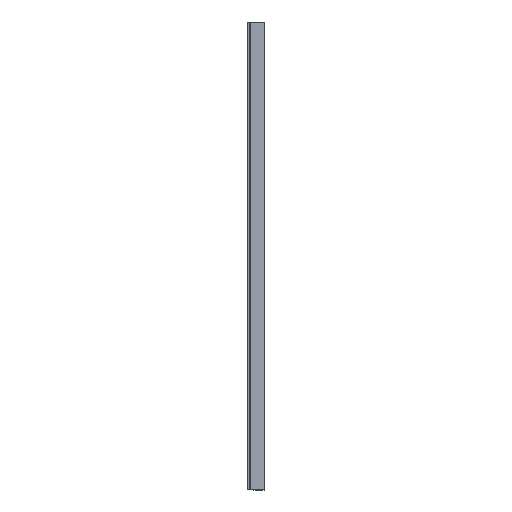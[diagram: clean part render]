
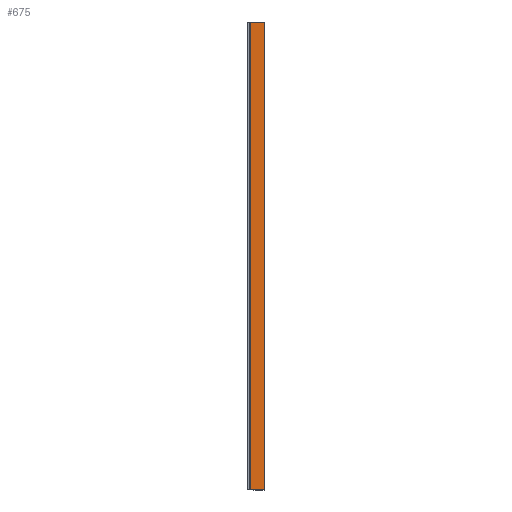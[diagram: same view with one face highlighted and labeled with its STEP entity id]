
A CAD part, left-side view. The second image highlights one B-rep face of the part: STEP entity #675.
In plain terms, the highlighted planar face has unit normal (-1, 0, 0).
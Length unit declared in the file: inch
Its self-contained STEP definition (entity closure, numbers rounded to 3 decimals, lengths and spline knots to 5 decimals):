
#39=PLANE('',#783);
#71=FACE_OUTER_BOUND('',#107,.T.);
#107=EDGE_LOOP('',(#547,#548,#549,#550));
#142=LINE('',#1074,#214);
#147=LINE('',#1089,#219);
#165=LINE('',#1132,#237);
#166=LINE('',#1134,#238);
#214=VECTOR('',#865,0.3937);
#219=VECTOR('',#880,0.3937);
#237=VECTOR('',#928,0.3937);
#238=VECTOR('',#931,0.3937);
#314=VERTEX_POINT('',#1071);
#315=VERTEX_POINT('',#1073);
#320=VERTEX_POINT('',#1088);
#330=VERTEX_POINT('',#1130);
#383=EDGE_CURVE('',#315,#314,#142,.T.);
#391=EDGE_CURVE('',#315,#320,#147,.T.);
#413=EDGE_CURVE('',#314,#330,#165,.T.);
#414=EDGE_CURVE('',#320,#330,#166,.T.);
#547=ORIENTED_EDGE('',*,*,#383,.T.);
#548=ORIENTED_EDGE('',*,*,#413,.T.);
#549=ORIENTED_EDGE('',*,*,#414,.F.);
#550=ORIENTED_EDGE('',*,*,#391,.F.);
#675=ADVANCED_FACE('',(#71),#39,.T.);
#783=AXIS2_PLACEMENT_3D('',#1133,#929,#930);
#865=DIRECTION('',(0.,-1.,0.));
#880=DIRECTION('',(0.,0.,1.));
#928=DIRECTION('',(0.,0.,1.));
#929=DIRECTION('center_axis',(-1.,0.,0.));
#930=DIRECTION('ref_axis',(0.,-1.,0.));
#931=DIRECTION('',(0.,-1.,0.));
#1071=CARTESIAN_POINT('',(-0.15,0.,0.));
#1073=CARTESIAN_POINT('',(-0.15,3.702,0.));
#1074=CARTESIAN_POINT('',(-0.15,3.702,0.));
#1088=CARTESIAN_POINT('',(-0.15,3.702,120.));
#1089=CARTESIAN_POINT('',(-0.15,3.702,0.));
#1130=CARTESIAN_POINT('',(-0.15,0.,120.));
#1132=CARTESIAN_POINT('',(-0.15,0.,0.));
#1133=CARTESIAN_POINT('Origin',(-0.15,3.702,0.));
#1134=CARTESIAN_POINT('',(-0.15,3.702,120.));
